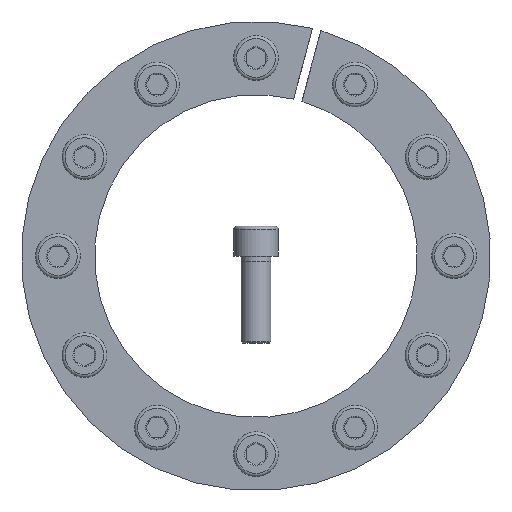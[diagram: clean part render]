
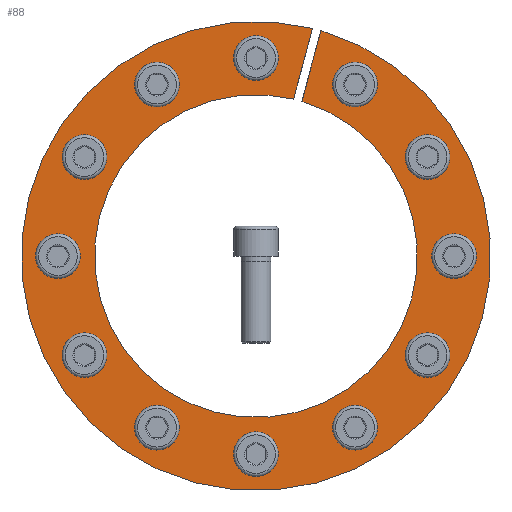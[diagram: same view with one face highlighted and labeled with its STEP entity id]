
A CAD part, front view. The second image highlights one B-rep face of the part: STEP entity #88.
In plain terms, the highlighted planar face has unit normal (0, -1, 0).
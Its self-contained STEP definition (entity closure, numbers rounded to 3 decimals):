
#88 = ADVANCED_FACE( '', ( #216, #217, #218, #219, #220, #221, #222, #223, #224, #225, #226, #227, #228 ), #229, .F. );
#216 = FACE_BOUND( '', #434, .T. );
#217 = FACE_BOUND( '', #435, .T. );
#218 = FACE_BOUND( '', #436, .T. );
#219 = FACE_BOUND( '', #437, .T. );
#220 = FACE_BOUND( '', #438, .T. );
#221 = FACE_BOUND( '', #439, .T. );
#222 = FACE_BOUND( '', #440, .T. );
#223 = FACE_BOUND( '', #441, .T. );
#224 = FACE_BOUND( '', #442, .T. );
#225 = FACE_BOUND( '', #443, .T. );
#226 = FACE_BOUND( '', #444, .T. );
#227 = FACE_BOUND( '', #445, .T. );
#228 = FACE_OUTER_BOUND( '', #446, .T. );
#229 = PLANE( '', #447 );
#434 = EDGE_LOOP( '', ( #692 ) );
#435 = EDGE_LOOP( '', ( #693 ) );
#436 = EDGE_LOOP( '', ( #694 ) );
#437 = EDGE_LOOP( '', ( #695 ) );
#438 = EDGE_LOOP( '', ( #696 ) );
#439 = EDGE_LOOP( '', ( #697 ) );
#440 = EDGE_LOOP( '', ( #698 ) );
#441 = EDGE_LOOP( '', ( #699 ) );
#442 = EDGE_LOOP( '', ( #700 ) );
#443 = EDGE_LOOP( '', ( #701 ) );
#444 = EDGE_LOOP( '', ( #702 ) );
#445 = EDGE_LOOP( '', ( #703 ) );
#446 = EDGE_LOOP( '', ( #704, #705, #706, #707 ) );
#447 = AXIS2_PLACEMENT_3D( '', #708, #709, #710 );
#692 = ORIENTED_EDGE( '', *, *, #1010, .T. );
#693 = ORIENTED_EDGE( '', *, *, #1033, .T. );
#694 = ORIENTED_EDGE( '', *, *, #1035, .T. );
#695 = ORIENTED_EDGE( '', *, *, #1036, .T. );
#696 = ORIENTED_EDGE( '', *, *, #1037, .T. );
#697 = ORIENTED_EDGE( '', *, *, #1028, .T. );
#698 = ORIENTED_EDGE( '', *, *, #1038, .T. );
#699 = ORIENTED_EDGE( '', *, *, #1039, .T. );
#700 = ORIENTED_EDGE( '', *, *, #1040, .T. );
#701 = ORIENTED_EDGE( '', *, *, #1041, .T. );
#702 = ORIENTED_EDGE( '', *, *, #1042, .T. );
#703 = ORIENTED_EDGE( '', *, *, #1043, .T. );
#704 = ORIENTED_EDGE( '', *, *, #1044, .T. );
#705 = ORIENTED_EDGE( '', *, *, #1045, .T. );
#706 = ORIENTED_EDGE( '', *, *, #1046, .T. );
#707 = ORIENTED_EDGE( '', *, *, #1047, .F. );
#708 = CARTESIAN_POINT( '', ( 0., 0., 94.5 ) );
#709 = DIRECTION( '', ( 0., 1., 0. ) );
#710 = DIRECTION( '', ( 0., 0., 1. ) );
#1010 = EDGE_CURVE( '', #1186, #1186, #1187, .T. );
#1028 = EDGE_CURVE( '', #1220, #1220, #1221, .T. );
#1033 = EDGE_CURVE( '', #1228, #1228, #1229, .T. );
#1035 = EDGE_CURVE( '', #1231, #1231, #1232, .T. );
#1036 = EDGE_CURVE( '', #1233, #1233, #1234, .T. );
#1037 = EDGE_CURVE( '', #1235, #1235, #1236, .T. );
#1038 = EDGE_CURVE( '', #1237, #1237, #1238, .T. );
#1039 = EDGE_CURVE( '', #1239, #1239, #1240, .T. );
#1040 = EDGE_CURVE( '', #1241, #1241, #1242, .T. );
#1041 = EDGE_CURVE( '', #1243, #1243, #1244, .T. );
#1042 = EDGE_CURVE( '', #1245, #1245, #1246, .T. );
#1043 = EDGE_CURVE( '', #1247, #1247, #1248, .T. );
#1044 = EDGE_CURVE( '', #1249, #1250, #1251, .T. );
#1045 = EDGE_CURVE( '', #1250, #1252, #1253, .T. );
#1046 = EDGE_CURVE( '', #1252, #1254, #1255, .T. );
#1047 = EDGE_CURVE( '', #1249, #1254, #1256, .T. );
#1186 = VERTEX_POINT( '', #1513 );
#1187 = CIRCLE( '', #1514, 6. );
#1220 = VERTEX_POINT( '', #1549 );
#1221 = CIRCLE( '', #1550, 6. );
#1228 = VERTEX_POINT( '', #1557 );
#1229 = CIRCLE( '', #1558, 6. );
#1231 = VERTEX_POINT( '', #1560 );
#1232 = CIRCLE( '', #1561, 6. );
#1233 = VERTEX_POINT( '', #1562 );
#1234 = CIRCLE( '', #1563, 6. );
#1235 = VERTEX_POINT( '', #1564 );
#1236 = CIRCLE( '', #1565, 6. );
#1237 = VERTEX_POINT( '', #1566 );
#1238 = CIRCLE( '', #1567, 6. );
#1239 = VERTEX_POINT( '', #1568 );
#1240 = CIRCLE( '', #1569, 6. );
#1241 = VERTEX_POINT( '', #1570 );
#1242 = CIRCLE( '', #1571, 6. );
#1243 = VERTEX_POINT( '', #1572 );
#1244 = CIRCLE( '', #1573, 6. );
#1245 = VERTEX_POINT( '', #1574 );
#1246 = CIRCLE( '', #1575, 6. );
#1247 = VERTEX_POINT( '', #1576 );
#1248 = CIRCLE( '', #1577, 6. );
#1249 = VERTEX_POINT( '', #1578 );
#1250 = VERTEX_POINT( '', #1579 );
#1251 = LINE( '', #1580, #1581 );
#1252 = VERTEX_POINT( '', #1582 );
#1253 = CIRCLE( '', #1583, 94.5 );
#1254 = VERTEX_POINT( '', #1584 );
#1255 = LINE( '', #1585, #1586 );
#1256 = CIRCLE( '', #1587, 65. );
#1513 = CARTESIAN_POINT( '', ( -34.679, 0., 72.066 ) );
#1514 = AXIS2_PLACEMENT_3D( '', #1758, #1759, #1760 );
#1549 = CARTESIAN_POINT( '', ( 45.071, 0., 66.066 ) );
#1550 = AXIS2_PLACEMENT_3D( '', #1802, #1803, #1804 );
#1557 = CARTESIAN_POINT( '', ( -79.75, 0., 6. ) );
#1558 = AXIS2_PLACEMENT_3D( '', #1811, #1812, #1813 );
#1560 = CARTESIAN_POINT( '', ( -45.071, 0., -66.066 ) );
#1561 = AXIS2_PLACEMENT_3D( '', #1814, #1815, #1816 );
#1562 = CARTESIAN_POINT( '', ( 34.679, 0., -72.066 ) );
#1563 = AXIS2_PLACEMENT_3D( '', #1817, #1818, #1819 );
#1564 = CARTESIAN_POINT( '', ( 79.75, 0., -6. ) );
#1565 = AXIS2_PLACEMENT_3D( '', #1820, #1821, #1822 );
#1566 = CARTESIAN_POINT( '', ( 6., 0., 79.75 ) );
#1567 = AXIS2_PLACEMENT_3D( '', #1823, #1824, #1825 );
#1568 = CARTESIAN_POINT( '', ( 72.066, 0., 34.679 ) );
#1569 = AXIS2_PLACEMENT_3D( '', #1826, #1827, #1828 );
#1570 = CARTESIAN_POINT( '', ( 66.066, 0., -45.071 ) );
#1571 = AXIS2_PLACEMENT_3D( '', #1829, #1830, #1831 );
#1572 = CARTESIAN_POINT( '', ( -6., 0., -79.75 ) );
#1573 = AXIS2_PLACEMENT_3D( '', #1832, #1833, #1834 );
#1574 = CARTESIAN_POINT( '', ( -72.066, 0., -34.679 ) );
#1575 = AXIS2_PLACEMENT_3D( '', #1835, #1836, #1837 );
#1576 = CARTESIAN_POINT( '', ( -66.066, 0., 45.071 ) );
#1577 = AXIS2_PLACEMENT_3D( '', #1838, #1839, #1840 );
#1578 = CARTESIAN_POINT( '', ( 15.127, 0., 63.215 ) );
#1579 = CARTESIAN_POINT( '', ( 22.764, 0., 91.717 ) );
#1580 = CARTESIAN_POINT( '', ( 15.127, 0., 63.215 ) );
#1581 = VECTOR( '', #1841, 1000. );
#1582 = CARTESIAN_POINT( '', ( 26.145, 0., 90.811 ) );
#1583 = AXIS2_PLACEMENT_3D( '', #1842, #1843, #1844 );
#1584 = CARTESIAN_POINT( '', ( 18.508, 0., 62.309 ) );
#1585 = CARTESIAN_POINT( '', ( 26.149, 0., 90.827 ) );
#1586 = VECTOR( '', #1845, 1000. );
#1587 = AXIS2_PLACEMENT_3D( '', #1846, #1847, #1848 );
#1758 = CARTESIAN_POINT( '', ( -39.875, 0., 69.066 ) );
#1759 = DIRECTION( '', ( 0., 1., 0. ) );
#1760 = DIRECTION( '', ( 0.866, 0., 0.5 ) );
#1802 = CARTESIAN_POINT( '', ( 39.875, 0., 69.066 ) );
#1803 = DIRECTION( '', ( 0., 1., 0. ) );
#1804 = DIRECTION( '', ( 0.866, 0., -0.5 ) );
#1811 = CARTESIAN_POINT( '', ( -79.75, 0., 0. ) );
#1812 = DIRECTION( '', ( 0., 1., 0. ) );
#1813 = DIRECTION( '', ( 0., 0., 1. ) );
#1814 = CARTESIAN_POINT( '', ( -39.875, 0., -69.066 ) );
#1815 = DIRECTION( '', ( 0., 1., 0. ) );
#1816 = DIRECTION( '', ( -0.866, 0., 0.5 ) );
#1817 = CARTESIAN_POINT( '', ( 39.875, 0., -69.066 ) );
#1818 = DIRECTION( '', ( 0., 1., 0. ) );
#1819 = DIRECTION( '', ( -0.866, 0., -0.5 ) );
#1820 = CARTESIAN_POINT( '', ( 79.75, 0., 0. ) );
#1821 = DIRECTION( '', ( 0., 1., 0. ) );
#1822 = DIRECTION( '', ( 0., 0., -1. ) );
#1823 = CARTESIAN_POINT( '', ( 0., 0., 79.75 ) );
#1824 = DIRECTION( '', ( 0., 1., 0. ) );
#1825 = DIRECTION( '', ( 1., 0., 0. ) );
#1826 = CARTESIAN_POINT( '', ( 69.066, 0., 39.875 ) );
#1827 = DIRECTION( '', ( 0., 1., 0. ) );
#1828 = DIRECTION( '', ( 0.5, 0., -0.866 ) );
#1829 = CARTESIAN_POINT( '', ( 69.066, 0., -39.875 ) );
#1830 = DIRECTION( '', ( 0., 1., 0. ) );
#1831 = DIRECTION( '', ( -0.5, 0., -0.866 ) );
#1832 = CARTESIAN_POINT( '', ( 0., 0., -79.75 ) );
#1833 = DIRECTION( '', ( 0., 1., 0. ) );
#1834 = DIRECTION( '', ( -1., 0., 0. ) );
#1835 = CARTESIAN_POINT( '', ( -69.066, 0., -39.875 ) );
#1836 = DIRECTION( '', ( 0., 1., 0. ) );
#1837 = DIRECTION( '', ( -0.5, 0., 0.866 ) );
#1838 = CARTESIAN_POINT( '', ( -69.066, 0., 39.875 ) );
#1839 = DIRECTION( '', ( 0., 1., 0. ) );
#1840 = DIRECTION( '', ( 0.5, 0., 0.866 ) );
#1841 = DIRECTION( '', ( 0.259, 0., 0.966 ) );
#1842 = CARTESIAN_POINT( '', ( 0., 0., 0. ) );
#1843 = DIRECTION( '', ( 0., -1., 0. ) );
#1844 = DIRECTION( '', ( 0., 0., -1. ) );
#1845 = DIRECTION( '', ( -0.259, 0., -0.966 ) );
#1846 = CARTESIAN_POINT( '', ( 0., 0., 0. ) );
#1847 = DIRECTION( '', ( 0., -1., 0. ) );
#1848 = DIRECTION( '', ( 0., 0., -1. ) );
